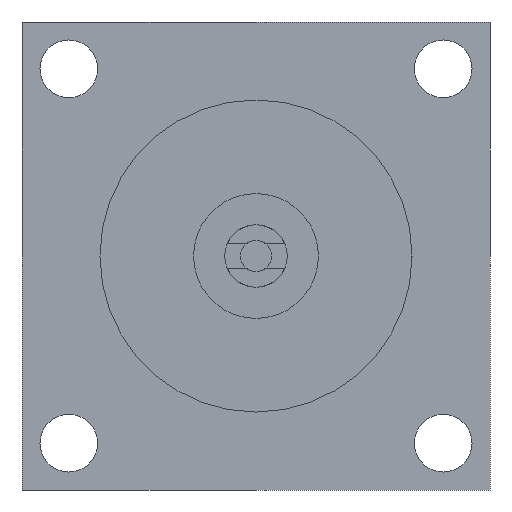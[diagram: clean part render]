
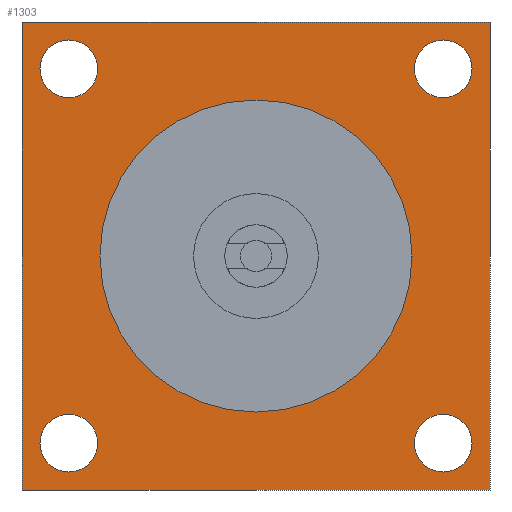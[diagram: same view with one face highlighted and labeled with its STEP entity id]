
A CAD part, left-side view. The second image highlights one B-rep face of the part: STEP entity #1303.
In plain terms, the highlighted planar face has unit normal (-1, 0, 0).
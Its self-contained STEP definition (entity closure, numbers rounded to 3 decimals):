
#32 = EDGE_CURVE ( 'NONE', #1613, #105, #624, .T. ) ;
#36 = EDGE_CURVE ( 'NONE', #665, #939, #1425, .T. ) ;
#45 = CARTESIAN_POINT ( 'NONE',  ( -20., 60., -60. ) ) ;
#52 = DIRECTION ( 'NONE',  ( 0., 0., 1. ) ) ;
#58 = DIRECTION ( 'NONE',  ( -1., 0., 0. ) ) ;
#71 = EDGE_CURVE ( 'NONE', #1351, #1555, #312, .T. ) ;
#76 = EDGE_CURVE ( 'NONE', #939, #665, #1742, .T. ) ;
#91 = ORIENTED_EDGE ( 'NONE', *, *, #76, .F. ) ;
#92 = ORIENTED_EDGE ( 'NONE', *, *, #673, .F. ) ;
#105 = VERTEX_POINT ( 'NONE', #823 ) ;
#115 = DIRECTION ( 'NONE',  ( 0., 0., 1. ) ) ;
#117 = CARTESIAN_POINT ( 'NONE',  ( -20., -60., 50.75 ) ) ;
#148 = CARTESIAN_POINT ( 'NONE',  ( -20., -75., 75. ) ) ;
#190 = FACE_OUTER_BOUND ( 'NONE', #613, .T. ) ;
#234 = FACE_BOUND ( 'NONE', #316, .T. ) ;
#284 = ORIENTED_EDGE ( 'NONE', *, *, #532, .F. ) ;
#292 = EDGE_LOOP ( 'NONE', ( #1463, #1383 ) ) ;
#312 = LINE ( 'NONE', #662, #649 ) ;
#316 = EDGE_LOOP ( 'NONE', ( #1143, #284 ) ) ;
#340 = CARTESIAN_POINT ( 'NONE',  ( -20., 75., 75. ) ) ;
#366 = CARTESIAN_POINT ( 'NONE',  ( -20., 0., 50. ) ) ;
#373 = DIRECTION ( 'NONE',  ( 0., -1., 0. ) ) ;
#406 = CARTESIAN_POINT ( 'NONE',  ( -20., 75., -75. ) ) ;
#447 = EDGE_CURVE ( 'NONE', #608, #572, #1587, .T. ) ;
#467 = CIRCLE ( 'NONE', #1356, 9.25 ) ;
#472 = ORIENTED_EDGE ( 'NONE', *, *, #71, .T. ) ;
#476 = ORIENTED_EDGE ( 'NONE', *, *, #32, .F. ) ;
#510 = CARTESIAN_POINT ( 'NONE',  ( -20., 60., 60. ) ) ;
#513 = DIRECTION ( 'NONE',  ( -1., 0., 0. ) ) ;
#514 = EDGE_CURVE ( 'NONE', #1087, #1079, #1249, .T. ) ;
#532 = EDGE_CURVE ( 'NONE', #1079, #1087, #467, .T. ) ;
#538 = CARTESIAN_POINT ( 'NONE',  ( -20., -60., -60. ) ) ;
#551 = ORIENTED_EDGE ( 'NONE', *, *, #447, .T. ) ;
#566 = FACE_BOUND ( 'NONE', #1504, .T. ) ;
#572 = VERTEX_POINT ( 'NONE', #1390 ) ;
#587 = DIRECTION ( 'NONE',  ( 0., 0., 1. ) ) ;
#604 = EDGE_CURVE ( 'NONE', #1184, #1765, #700, .T. ) ;
#608 = VERTEX_POINT ( 'NONE', #1593 ) ;
#609 = DIRECTION ( 'NONE',  ( -1., 0., 0. ) ) ;
#613 = EDGE_LOOP ( 'NONE', ( #551, #1248, #472, #655 ) ) ;
#615 = DIRECTION ( 'NONE',  ( 0., 0., 1. ) ) ;
#624 = CIRCLE ( 'NONE', #635, 9.25 ) ;
#635 = AXIS2_PLACEMENT_3D ( 'NONE', #1426, #1561, #1818 ) ;
#649 = VECTOR ( 'NONE', #1697, 1000. ) ;
#655 = ORIENTED_EDGE ( 'NONE', *, *, #1305, .T. ) ;
#662 = CARTESIAN_POINT ( 'NONE',  ( -20., 75., 75. ) ) ;
#665 = VERTEX_POINT ( 'NONE', #1779 ) ;
#673 = EDGE_CURVE ( 'NONE', #1765, #1184, #1359, .T. ) ;
#700 = CIRCLE ( 'NONE', #1755, 9.25 ) ;
#709 = EDGE_CURVE ( 'NONE', #105, #1613, #1702, .T. ) ;
#739 = CARTESIAN_POINT ( 'NONE',  ( -20., -60., -50.75 ) ) ;
#753 = ORIENTED_EDGE ( 'NONE', *, *, #709, .F. ) ;
#766 = EDGE_CURVE ( 'NONE', #1495, #1422, #1569, .T. ) ;
#767 = AXIS2_PLACEMENT_3D ( 'NONE', #45, #58, #52 ) ;
#785 = CARTESIAN_POINT ( 'NONE',  ( -20., -60., 60. ) ) ;
#787 = DIRECTION ( 'NONE',  ( -1., 0., 0. ) ) ;
#790 = DIRECTION ( 'NONE',  ( 0., 0., 1. ) ) ;
#800 = ORIENTED_EDGE ( 'NONE', *, *, #36, .F. ) ;
#814 = DIRECTION ( 'NONE',  ( 0., 0., -1. ) ) ;
#822 = VECTOR ( 'NONE', #373, 1000. ) ;
#823 = CARTESIAN_POINT ( 'NONE',  ( -20., 60., 50.75 ) ) ;
#824 = AXIS2_PLACEMENT_3D ( 'NONE', #1544, #1588, #1553 ) ;
#854 = CARTESIAN_POINT ( 'NONE',  ( -20., -60., 60. ) ) ;
#855 = CIRCLE ( 'NONE', #1483, 9.25 ) ;
#861 = DIRECTION ( 'NONE',  ( -1., 0., 0. ) ) ;
#872 = CARTESIAN_POINT ( 'NONE',  ( -20., -60., 69.25 ) ) ;
#873 = DIRECTION ( 'NONE',  ( 0., 0., 1. ) ) ;
#900 = LINE ( 'NONE', #1749, #1659 ) ;
#917 = ORIENTED_EDGE ( 'NONE', *, *, #604, .F. ) ;
#939 = VERTEX_POINT ( 'NONE', #366 ) ;
#943 = FACE_BOUND ( 'NONE', #1793, .T. ) ;
#1074 = AXIS2_PLACEMENT_3D ( 'NONE', #785, #787, #790 ) ;
#1079 = VERTEX_POINT ( 'NONE', #117 ) ;
#1087 = VERTEX_POINT ( 'NONE', #872 ) ;
#1089 = AXIS2_PLACEMENT_3D ( 'NONE', #1603, #1728, #1740 ) ;
#1104 = AXIS2_PLACEMENT_3D ( 'NONE', #1838, #1841, #814 ) ;
#1123 = CARTESIAN_POINT ( 'NONE',  ( -20., 60., 69.25 ) ) ;
#1143 = ORIENTED_EDGE ( 'NONE', *, *, #514, .F. ) ;
#1184 = VERTEX_POINT ( 'NONE', #1219 ) ;
#1187 = VECTOR ( 'NONE', #115, 1000. ) ;
#1219 = CARTESIAN_POINT ( 'NONE',  ( -20., 60., -50.75 ) ) ;
#1248 = ORIENTED_EDGE ( 'NONE', *, *, #1364, .T. ) ;
#1249 = CIRCLE ( 'NONE', #1074, 9.25 ) ;
#1258 = CARTESIAN_POINT ( 'NONE',  ( -20., -60., -60. ) ) ;
#1303 = ADVANCED_FACE ( 'NONE', ( #1704, #234, #1319, #943, #566, #190 ), #1719, .F. ) ;
#1305 = EDGE_CURVE ( 'NONE', #1555, #608, #900, .T. ) ;
#1306 = DIRECTION ( 'NONE',  ( -1., 0., 0. ) ) ;
#1309 = CARTESIAN_POINT ( 'NONE',  ( -20., 60., -69.25 ) ) ;
#1319 = FACE_BOUND ( 'NONE', #292, .T. ) ;
#1323 = AXIS2_PLACEMENT_3D ( 'NONE', #510, #513, #587 ) ;
#1328 = DIRECTION ( 'NONE',  ( 0., 0., 1. ) ) ;
#1351 = VERTEX_POINT ( 'NONE', #1836 ) ;
#1356 = AXIS2_PLACEMENT_3D ( 'NONE', #854, #861, #873 ) ;
#1359 = CIRCLE ( 'NONE', #767, 9.25 ) ;
#1364 = EDGE_CURVE ( 'NONE', #572, #1351, #1572, .T. ) ;
#1383 = ORIENTED_EDGE ( 'NONE', *, *, #766, .F. ) ;
#1390 = CARTESIAN_POINT ( 'NONE',  ( -20., -75., -75. ) ) ;
#1395 = EDGE_CURVE ( 'NONE', #1422, #1495, #855, .T. ) ;
#1422 = VERTEX_POINT ( 'NONE', #739 ) ;
#1425 = CIRCLE ( 'NONE', #824, 50. ) ;
#1426 = CARTESIAN_POINT ( 'NONE',  ( -20., 60., 60. ) ) ;
#1463 = ORIENTED_EDGE ( 'NONE', *, *, #1395, .F. ) ;
#1483 = AXIS2_PLACEMENT_3D ( 'NONE', #538, #609, #615 ) ;
#1495 = VERTEX_POINT ( 'NONE', #1524 ) ;
#1496 = AXIS2_PLACEMENT_3D ( 'NONE', #1258, #1306, #1328 ) ;
#1504 = EDGE_LOOP ( 'NONE', ( #917, #92 ) ) ;
#1524 = CARTESIAN_POINT ( 'NONE',  ( -20., -60., -69.25 ) ) ;
#1544 = CARTESIAN_POINT ( 'NONE',  ( -20., 0., 0. ) ) ;
#1553 = DIRECTION ( 'NONE',  ( 0., 0., -1. ) ) ;
#1555 = VERTEX_POINT ( 'NONE', #340 ) ;
#1561 = DIRECTION ( 'NONE',  ( -1., 0., 0. ) ) ;
#1569 = CIRCLE ( 'NONE', #1496, 9.25 ) ;
#1572 = LINE ( 'NONE', #148, #1187 ) ;
#1587 = LINE ( 'NONE', #406, #822 ) ;
#1588 = DIRECTION ( 'NONE',  ( -1., 0., 0. ) ) ;
#1593 = CARTESIAN_POINT ( 'NONE',  ( -20., 75., -75. ) ) ;
#1603 = CARTESIAN_POINT ( 'NONE',  ( -20., 0., 0. ) ) ;
#1613 = VERTEX_POINT ( 'NONE', #1123 ) ;
#1615 = CARTESIAN_POINT ( 'NONE',  ( -20., 60., -60. ) ) ;
#1618 = EDGE_LOOP ( 'NONE', ( #800, #91 ) ) ;
#1624 = DIRECTION ( 'NONE',  ( -1., 0., 0. ) ) ;
#1630 = DIRECTION ( 'NONE',  ( 0., 0., 1. ) ) ;
#1659 = VECTOR ( 'NONE', #1707, 1000. ) ;
#1697 = DIRECTION ( 'NONE',  ( 0., 1., 0. ) ) ;
#1702 = CIRCLE ( 'NONE', #1323, 9.25 ) ;
#1704 = FACE_BOUND ( 'NONE', #1618, .T. ) ;
#1707 = DIRECTION ( 'NONE',  ( 0., 0., -1. ) ) ;
#1719 = PLANE ( 'NONE',  #1089 ) ;
#1728 = DIRECTION ( 'NONE',  ( 1., 0., 0. ) ) ;
#1740 = DIRECTION ( 'NONE',  ( 0., 0., -1. ) ) ;
#1742 = CIRCLE ( 'NONE', #1104, 50. ) ;
#1749 = CARTESIAN_POINT ( 'NONE',  ( -20., 75., 75. ) ) ;
#1755 = AXIS2_PLACEMENT_3D ( 'NONE', #1615, #1624, #1630 ) ;
#1765 = VERTEX_POINT ( 'NONE', #1309 ) ;
#1779 = CARTESIAN_POINT ( 'NONE',  ( -20., 0., -50. ) ) ;
#1793 = EDGE_LOOP ( 'NONE', ( #476, #753 ) ) ;
#1818 = DIRECTION ( 'NONE',  ( 0., 0., 1. ) ) ;
#1836 = CARTESIAN_POINT ( 'NONE',  ( -20., -75., 75. ) ) ;
#1838 = CARTESIAN_POINT ( 'NONE',  ( -20., 0., 0. ) ) ;
#1841 = DIRECTION ( 'NONE',  ( -1., 0., 0. ) ) ;
